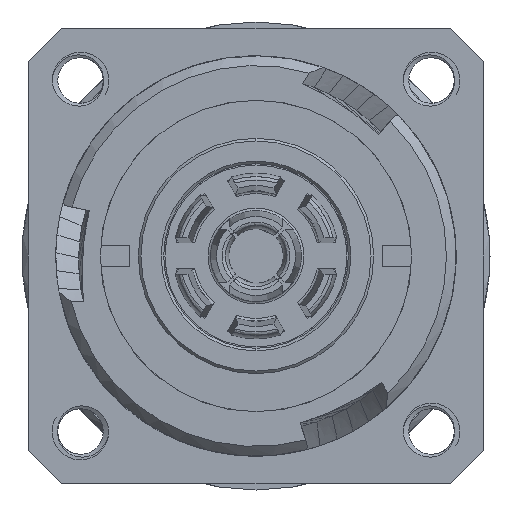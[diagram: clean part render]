
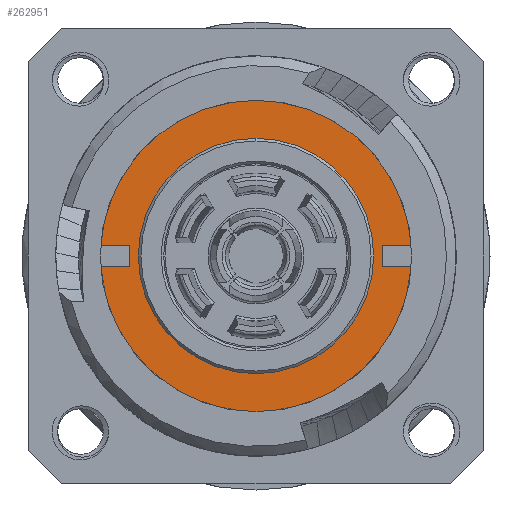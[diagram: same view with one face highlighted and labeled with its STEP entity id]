
A CAD part, left-side view. The second image highlights one B-rep face of the part: STEP entity #262951.
In plain terms, the highlighted planar face has unit normal (-1, 0, 0).
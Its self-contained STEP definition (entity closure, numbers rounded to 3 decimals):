
#75207=CARTESIAN_POINT('',(17.8,0.,0.));
#75208=DIRECTION('',(1.,0.,0.));
#75209=DIRECTION('',(0.,-0.998,0.069));
#75210=AXIS2_PLACEMENT_3D('',#75207,#75208,#75209);
#75212=CARTESIAN_POINT('',(17.8,0.,0.));
#75213=DIRECTION('',(-1.,0.,0.));
#75214=DIRECTION('',(0.,-1.,0.));
#75215=AXIS2_PLACEMENT_3D('',#75212,#75213,#75214);
#75217=CARTESIAN_POINT('',(17.8,0.,0.));
#75218=DIRECTION('',(1.,0.,0.));
#75219=DIRECTION('',(0.,-1.,0.));
#75220=AXIS2_PLACEMENT_3D('',#75217,#75218,#75219);
#75238=CARTESIAN_POINT('',(17.8,0.,0.));
#75239=DIRECTION('',(-1.,0.,0.));
#75240=DIRECTION('',(0.,-0.998,0.069));
#75241=AXIS2_PLACEMENT_3D('',#75238,#75239,#75240);
#80226=CARTESIAN_POINT('',(17.8,-9.05,0.));
#80227=CARTESIAN_POINT('',(17.8,9.05,0.));
#80228=VERTEX_POINT('',#80226);
#80229=VERTEX_POINT('',#80227);
#80730=CARTESIAN_POINT('',(17.8,11.947,0.825));
#80731=VERTEX_POINT('',#80730);
#80736=CARTESIAN_POINT('',(17.8,-11.947,0.825));
#80737=VERTEX_POINT('',#80736);
#262935=CARTESIAN_POINT('',(17.8,0.,0.));
#262936=DIRECTION('',(-1.,0.,0.));
#262937=DIRECTION('',(0.,1.,0.));
#262938=AXIS2_PLACEMENT_3D('',#262935,#262936,#262937);
#262939=PLANE('311',#262938);
#262941=ORIENTED_EDGE('8803',*,*,#262940,.F.);
#262942=ORIENTED_EDGE('8812',*,*,#262902,.T.);
#262943=EDGE_LOOP('311',(#262941,#262942));
#262944=FACE_OUTER_BOUND('311',#262943,.F.);
#262946=ORIENTED_EDGE('8221',*,*,#262945,.T.);
#262948=ORIENTED_EDGE('8220',*,*,#262947,.F.);
#262949=EDGE_LOOP('311',(#262946,#262948));
#262950=FACE_BOUND('311',#262949,.F.);
#75211=CIRCLE('8812',#75210,11.975);
#75216=CIRCLE('8221',#75215,9.05);
#75221=CIRCLE('8220',#75220,9.05);
#75242=CIRCLE('8803',#75241,11.975);
#262902=EDGE_CURVE('8812',#80737,#80731,#75211,.T.);
#262940=EDGE_CURVE('8803',#80737,#80731,#75242,.T.);
#262945=EDGE_CURVE('8221',#80228,#80229,#75216,.T.);
#262947=EDGE_CURVE('8220',#80228,#80229,#75221,.T.);
#262951=ADVANCED_FACE('311',(#262944,#262950),#262939,.T.);
